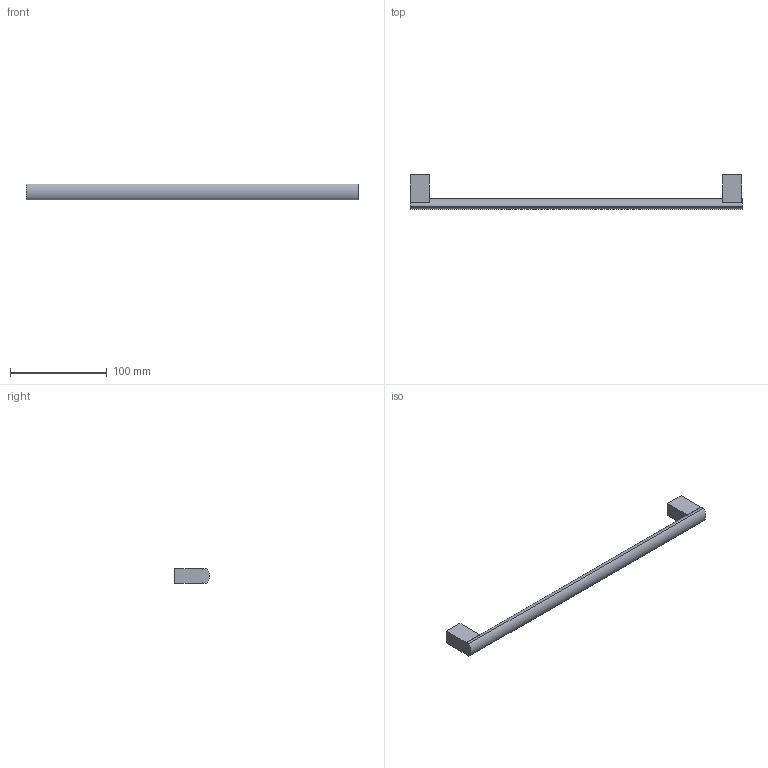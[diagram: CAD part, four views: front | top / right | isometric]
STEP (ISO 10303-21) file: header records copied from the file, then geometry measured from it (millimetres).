
FILE_DESCRIPTION( ( 'STEP AP214' ), '1' );
FILE_NAME( 'D:/Shahbaz D&D/Task/Check and correct handles with 3 drill sockets/Clivia/115358.stp', '2023-02-20T10:47:31', ( '' ), ( '' ), ' ', 'PARTsolutions', ' ' );
FILE_SCHEMA( ( 'AUTOMOTIVE_DESIGN { 1 0 10303 214 1 1 1 1 }' ) );
Length unit declared in the file: millimetre
Products named in the file (1): _115358
Bounding box: 344 x 35.96 x 16 mm (x, y, z)
Volume: 61521.1 mm3; surface area: 18998.2 mm2
Topology: 1 solids, 1 shells, 21 faces, 48 edges, 32 vertices
Faces by surface type: plane 17, cylinder 4
Full cylindrical faces by diameter (mm): 4 x2
Entity records: 768 total; most frequent: DIRECTION 102, CARTESIAN_POINT 100, ORIENTED_EDGE 92, EDGE_CURVE 46, AXIS2_PLACEMENT_3D 34, LINE 34, VECTOR 34, VERTEX_POINT 32
